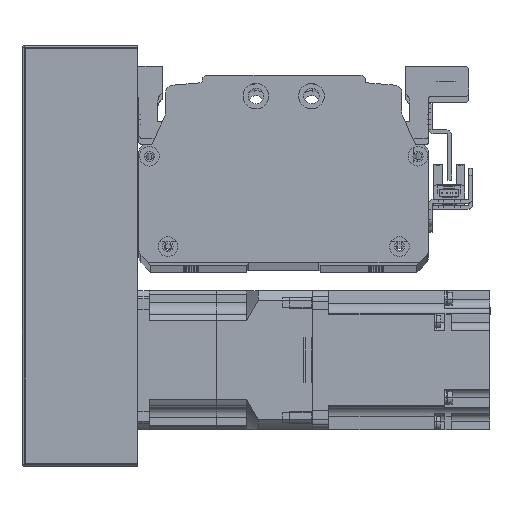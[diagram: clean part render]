
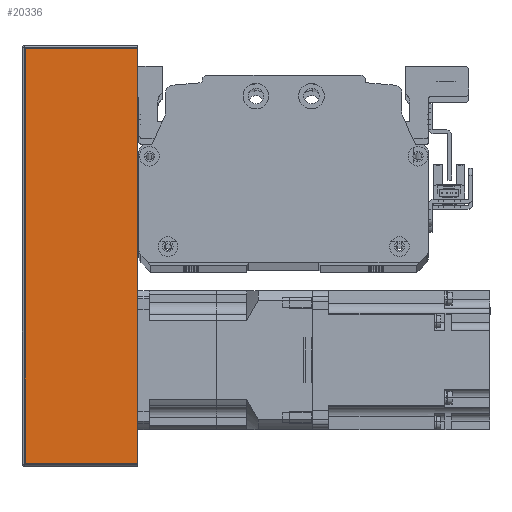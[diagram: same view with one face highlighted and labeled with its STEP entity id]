
A CAD part, top view. The second image highlights one B-rep face of the part: STEP entity #20336.
In plain terms, the highlighted planar face has unit normal (0, 0, 1) as drawn and (0, 1, 0) by its records, which use the part's own axes.
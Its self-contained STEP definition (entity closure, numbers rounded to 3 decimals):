
#609=PLANE('',#22392);
#1812=LINE('',#33569,#3436);
#1829=LINE('',#33623,#3453);
#1834=LINE('',#33647,#3458);
#1853=LINE('',#33710,#3477);
#3436=VECTOR('',#27171,10.);
#3453=VECTOR('',#27224,10.);
#3458=VECTOR('',#27261,10.);
#3477=VECTOR('',#27344,10.);
#5944=FACE_OUTER_BOUND('',#7476,.T.);
#7476=EDGE_LOOP('',(#17567,#17568,#17569,#17570));
#10405=VERTEX_POINT('',#33566);
#10406=VERTEX_POINT('',#33568);
#10424=VERTEX_POINT('',#33620);
#10425=VERTEX_POINT('',#33622);
#12888=EDGE_CURVE('',#10405,#10406,#1812,.T.);
#12916=EDGE_CURVE('',#10424,#10425,#1829,.T.);
#12930=EDGE_CURVE('',#10406,#10424,#1834,.T.);
#12961=EDGE_CURVE('',#10425,#10405,#1853,.T.);
#17567=ORIENTED_EDGE('',*,*,#12916,.F.);
#17568=ORIENTED_EDGE('',*,*,#12930,.F.);
#17569=ORIENTED_EDGE('',*,*,#12888,.F.);
#17570=ORIENTED_EDGE('',*,*,#12961,.F.);
#20336=ADVANCED_FACE('',(#5944),#609,.T.);
#22392=AXIS2_PLACEMENT_3D('',#33709,#27342,#27343);
#27171=DIRECTION('',(-1.,0.,0.));
#27224=DIRECTION('',(1.,0.,0.));
#27261=DIRECTION('',(0.,0.,-1.));
#27342=DIRECTION('center_axis',(0.,1.,0.));
#27343=DIRECTION('ref_axis',(-1.,0.,0.));
#27344=DIRECTION('',(0.,0.,1.));
#33566=CARTESIAN_POINT('',(90.,38.,25.));
#33568=CARTESIAN_POINT('',(-90.,38.,25.));
#33569=CARTESIAN_POINT('',(-91.,38.,25.));
#33620=CARTESIAN_POINT('',(-90.,38.,-24.));
#33622=CARTESIAN_POINT('',(90.,38.,-24.));
#33623=CARTESIAN_POINT('',(45.5,38.,-24.));
#33647=CARTESIAN_POINT('',(-90.,38.,0.));
#33709=CARTESIAN_POINT('Origin',(91.,38.,0.));
#33710=CARTESIAN_POINT('',(90.,38.,0.));
